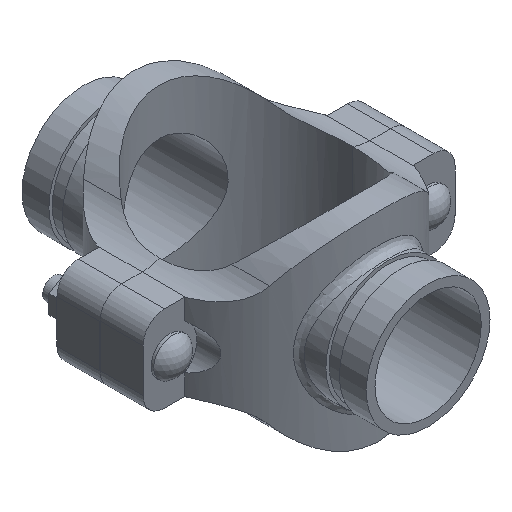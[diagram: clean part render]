
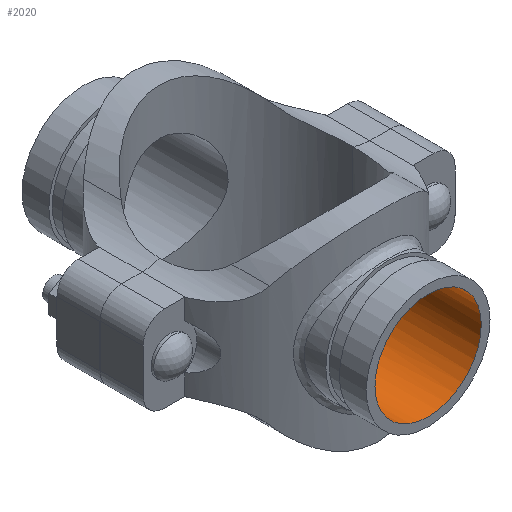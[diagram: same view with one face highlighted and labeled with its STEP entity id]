
A CAD part, isometric view. The second image highlights one B-rep face of the part: STEP entity #2020.
In plain terms, the highlighted cylindrical face has radius 31.369 mm (diameter 62.738 mm), a full revolution.
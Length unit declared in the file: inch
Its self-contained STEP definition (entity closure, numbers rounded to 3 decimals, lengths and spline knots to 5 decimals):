
#52=B_SPLINE_CURVE_WITH_KNOTS('',3,(#4172,#4173,#4174,#4175,#4176,#4177,
#4178,#4179,#4180,#4181,#4182,#4183,#4184,#4185,#4186,#4187,#4188,#4189,
#4190,#4191,#4192,#4193,#4194,#4195,#4196,#4197,#4198,#4199,#4200,#4201,
#4202,#4203,#4204,#4205,#4206,#4207,#4208,#4209,#4210,#4211,#4212,#4213,
#4214,#4215,#4216,#4217,#4218,#4219,#4220,#4221,#4222,#4223,#4224,#4225,
#4226,#4227,#4228,#4229,#4230,#4231,#4232,#4233,#4234,#4235,#4236,#4237),
 .UNSPECIFIED.,.T.,.F.,(4,2,2,2,2,2,2,2,2,2,2,2,2,2,2,2,2,2,2,2,2,2,2,2,
2,2,2,2,2,2,2,2,4),(0.,0.60713,1.21426,1.82139,
2.42852,3.0331,3.63768,4.24226,4.84684,
5.45142,6.056,6.66058,7.26516,7.87229,
8.47942,9.08655,9.69368,10.30081,10.90794,
11.51507,12.12221,12.72678,13.33136,13.93594,
14.54052,15.1451,15.74968,16.35426,16.95884,
17.56597,18.1731,18.78023,19.38736),
 .UNSPECIFIED.);
#99=CYLINDRICAL_SURFACE('',#2261,1.235);
#218=FACE_OUTER_BOUND('',#342,.T.);
#342=EDGE_LOOP('',(#1624,#1625,#1626,#1627));
#494=LINE('',#4171,#644);
#644=VECTOR('',#2736,1.235);
#748=CIRCLE('',#2262,1.235);
#917=VERTEX_POINT('',#4168);
#918=VERTEX_POINT('',#4170);
#1168=EDGE_CURVE('',#917,#917,#748,.T.);
#1169=EDGE_CURVE('',#917,#918,#494,.T.);
#1170=EDGE_CURVE('',#918,#918,#52,.T.);
#1624=ORIENTED_EDGE('',*,*,#1168,.F.);
#1625=ORIENTED_EDGE('',*,*,#1169,.T.);
#1626=ORIENTED_EDGE('',*,*,#1170,.F.);
#1627=ORIENTED_EDGE('',*,*,#1169,.F.);
#2020=ADVANCED_FACE('',(#218),#99,.F.);
#2261=AXIS2_PLACEMENT_3D('',#4167,#2732,#2733);
#2262=AXIS2_PLACEMENT_3D('',#4169,#2734,#2735);
#2732=DIRECTION('center_axis',(0.,-1.,0.));
#2733=DIRECTION('ref_axis',(-1.,0.,0.));
#2734=DIRECTION('center_axis',(0.,-1.,0.));
#2735=DIRECTION('ref_axis',(-1.,0.,0.));
#2736=DIRECTION('',(0.,-1.,0.));
#4167=CARTESIAN_POINT('Origin',(0.,4.,0.));
#4168=CARTESIAN_POINT('',(1.235,4.,0.));
#4169=CARTESIAN_POINT('Origin',(0.,4.,0.));
#4170=CARTESIAN_POINT('',(1.235,1.88076,0.));
#4171=CARTESIAN_POINT('',(1.235,4.,0.));
#4172=CARTESIAN_POINT('Ctrl Pts',(1.235,1.88076,0.));
#4173=CARTESIAN_POINT('Ctrl Pts',(1.235,1.88076,-0.07968));
#4174=CARTESIAN_POINT('Ctrl Pts',(1.22717,1.88598,-0.1613));
#4175=CARTESIAN_POINT('Ctrl Pts',(1.19502,1.90651,-0.32232));
#4176=CARTESIAN_POINT('Ctrl Pts',(1.17071,1.92179,-0.40174));
#4177=CARTESIAN_POINT('Ctrl Pts',(1.10726,1.95904,-0.55311));
#4178=CARTESIAN_POINT('Ctrl Pts',(1.06807,1.98098,-0.62523));
#4179=CARTESIAN_POINT('Ctrl Pts',(0.97808,2.02692,-0.75831));
#4180=CARTESIAN_POINT('Ctrl Pts',(0.92727,2.05088,-0.81928));
#4181=CARTESIAN_POINT('Ctrl Pts',(0.81951,2.09626,-0.92705));
#4182=CARTESIAN_POINT('Ctrl Pts',(0.75865,2.1194,-0.97782));
#4183=CARTESIAN_POINT('Ctrl Pts',(0.62553,2.16243,-1.06789));
#4184=CARTESIAN_POINT('Ctrl Pts',(0.55326,2.1823,-1.1072));
#4185=CARTESIAN_POINT('Ctrl Pts',(0.40155,2.21524,-1.17079));
#4186=CARTESIAN_POINT('Ctrl Pts',(0.32196,2.22832,-1.19512));
#4187=CARTESIAN_POINT('Ctrl Pts',(0.16086,2.2457,-1.22723));
#4188=CARTESIAN_POINT('Ctrl Pts',(0.07934,2.25,-1.235));
#4189=CARTESIAN_POINT('Ctrl Pts',(-0.07934,2.25,-1.235));
#4190=CARTESIAN_POINT('Ctrl Pts',(-0.16086,2.2457,-1.22723));
#4191=CARTESIAN_POINT('Ctrl Pts',(-0.32196,2.22832,-1.19512));
#4192=CARTESIAN_POINT('Ctrl Pts',(-0.40155,2.21524,-1.17079));
#4193=CARTESIAN_POINT('Ctrl Pts',(-0.55326,2.1823,-1.1072));
#4194=CARTESIAN_POINT('Ctrl Pts',(-0.62553,2.16243,-1.06789));
#4195=CARTESIAN_POINT('Ctrl Pts',(-0.75865,2.1194,-0.97782));
#4196=CARTESIAN_POINT('Ctrl Pts',(-0.81951,2.09626,-0.92705));
#4197=CARTESIAN_POINT('Ctrl Pts',(-0.92727,2.05088,-0.81928));
#4198=CARTESIAN_POINT('Ctrl Pts',(-0.97808,2.02692,-0.75831));
#4199=CARTESIAN_POINT('Ctrl Pts',(-1.06807,1.98098,-0.62523));
#4200=CARTESIAN_POINT('Ctrl Pts',(-1.10726,1.95904,-0.55311));
#4201=CARTESIAN_POINT('Ctrl Pts',(-1.17071,1.92179,-0.40174));
#4202=CARTESIAN_POINT('Ctrl Pts',(-1.19502,1.90651,-0.32232));
#4203=CARTESIAN_POINT('Ctrl Pts',(-1.22717,1.88598,-0.1613));
#4204=CARTESIAN_POINT('Ctrl Pts',(-1.235,1.88076,-0.07968));
#4205=CARTESIAN_POINT('Ctrl Pts',(-1.235,1.88076,0.07968));
#4206=CARTESIAN_POINT('Ctrl Pts',(-1.22717,1.88598,0.1613));
#4207=CARTESIAN_POINT('Ctrl Pts',(-1.19502,1.90651,0.32232));
#4208=CARTESIAN_POINT('Ctrl Pts',(-1.17071,1.92179,0.40174));
#4209=CARTESIAN_POINT('Ctrl Pts',(-1.10726,1.95904,0.55311));
#4210=CARTESIAN_POINT('Ctrl Pts',(-1.06807,1.98098,0.62523));
#4211=CARTESIAN_POINT('Ctrl Pts',(-0.97808,2.02692,0.75831));
#4212=CARTESIAN_POINT('Ctrl Pts',(-0.92727,2.05088,0.81928));
#4213=CARTESIAN_POINT('Ctrl Pts',(-0.81951,2.09626,0.92705));
#4214=CARTESIAN_POINT('Ctrl Pts',(-0.75865,2.1194,0.97782));
#4215=CARTESIAN_POINT('Ctrl Pts',(-0.62553,2.16243,1.06789));
#4216=CARTESIAN_POINT('Ctrl Pts',(-0.55326,2.1823,1.1072));
#4217=CARTESIAN_POINT('Ctrl Pts',(-0.40155,2.21524,1.17079));
#4218=CARTESIAN_POINT('Ctrl Pts',(-0.32196,2.22832,1.19512));
#4219=CARTESIAN_POINT('Ctrl Pts',(-0.16086,2.2457,1.22723));
#4220=CARTESIAN_POINT('Ctrl Pts',(-0.07934,2.25,1.235));
#4221=CARTESIAN_POINT('Ctrl Pts',(0.07934,2.25,1.235));
#4222=CARTESIAN_POINT('Ctrl Pts',(0.16086,2.2457,1.22723));
#4223=CARTESIAN_POINT('Ctrl Pts',(0.32196,2.22832,1.19512));
#4224=CARTESIAN_POINT('Ctrl Pts',(0.40155,2.21524,1.17079));
#4225=CARTESIAN_POINT('Ctrl Pts',(0.55326,2.1823,1.1072));
#4226=CARTESIAN_POINT('Ctrl Pts',(0.62553,2.16243,1.06789));
#4227=CARTESIAN_POINT('Ctrl Pts',(0.75865,2.1194,0.97782));
#4228=CARTESIAN_POINT('Ctrl Pts',(0.81951,2.09626,0.92705));
#4229=CARTESIAN_POINT('Ctrl Pts',(0.92727,2.05088,0.81928));
#4230=CARTESIAN_POINT('Ctrl Pts',(0.97808,2.02692,0.75831));
#4231=CARTESIAN_POINT('Ctrl Pts',(1.06807,1.98098,0.62523));
#4232=CARTESIAN_POINT('Ctrl Pts',(1.10726,1.95904,0.55311));
#4233=CARTESIAN_POINT('Ctrl Pts',(1.17071,1.92179,0.40174));
#4234=CARTESIAN_POINT('Ctrl Pts',(1.19502,1.90651,0.32232));
#4235=CARTESIAN_POINT('Ctrl Pts',(1.22717,1.88598,0.1613));
#4236=CARTESIAN_POINT('Ctrl Pts',(1.235,1.88076,0.07968));
#4237=CARTESIAN_POINT('Ctrl Pts',(1.235,1.88076,0.));
